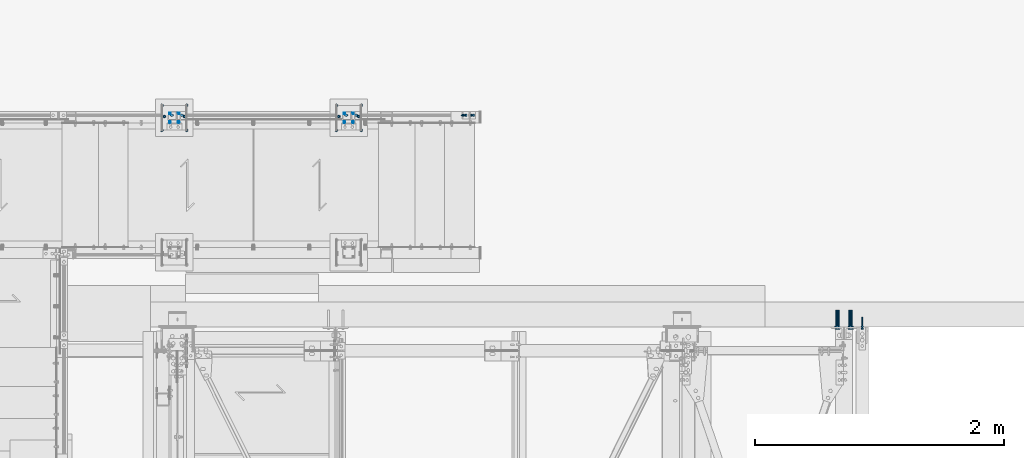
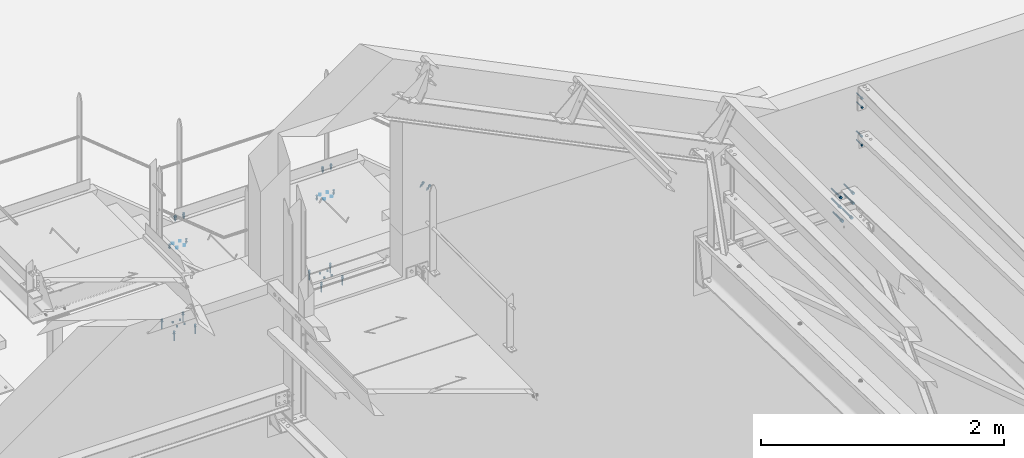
# One storey, part 200 of 362: 16 mechanical fasteners.
"""IFC2X3 building model written with IfcOpenShell, lengths in millimetres."""

from ifc_helpers import new_model, si_unit, frame, frame_2d, origin_with_axes, origin_2d_with_axis, place, context, subcontext, project, spatial, polyline, circle_curve, parameter, trimmed, segment, composite_curve, circle, outline, extrude, source, transform, mapped, material, type_object, element, save


model = new_model("IFC2X3")

# Units and contexts
model_context = context("Model", 3, precision=1e-05, world=origin_with_axes())
body_context = subcontext(model_context, "Body", "Model", "MODEL_VIEW")
ifc_project = project(units=[si_unit("LENGTHUNIT", "METRE", prefix="MILLI"), si_unit("AREAUNIT", "SQUARE_METRE"), si_unit("VOLUMEUNIT", "CUBIC_METRE"), si_unit("MASSUNIT", "GRAM", prefix="KILO"), si_unit("TIMEUNIT", "SECOND"), si_unit("PLANEANGLEUNIT", "RADIAN"), si_unit("SOLIDANGLEUNIT", "STERADIAN"), si_unit("THERMODYNAMICTEMPERATUREUNIT", "DEGREE_CELSIUS"), si_unit("LUMINOUSINTENSITYUNIT", "LUMEN")], contexts=[model_context])

# Site, building, storey
site_placement = place(None, origin_with_axes())
site = spatial("IfcSite", under=ifc_project, at=site_placement, Name="Undefined", CompositionType="ELEMENT")
building_placement = place(site_placement, origin_with_axes())
building = spatial("IfcBuilding", under=site, at=building_placement, Name="Undefined", CompositionType="ELEMENT")
storey_placement = place(building_placement, origin_with_axes())
storey = spatial("IfcBuildingStorey", under=building, at=storey_placement, Name="Undefined", CompositionType="ELEMENT", Elevation=0.0)

# Mechanical fasteners
ifc_material_1 = material(Name="6.8")
mechanical_fastener_type = type_object("IfcMechanicalFastenerType", Name="Bolt assembly")
shared_shape_1 = source(origin_with_axes(), body_context, "Body", "SweptSolid", [
    extrude(circle(Radius=7.0, at=origin_2d_with_axis()), frame((0.0, -12.0, 0.0), z_axis=(0.0, 1.0, 0.0), x_axis=(1.0, 0.0, 0.0)), (0.0, 0.0, 1.0), 12.1),
])
for number, where, z_axis, x_axis, name in (
    (1, (34255.0000000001, 17034.9996684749, 7050.0), (-1.0, 0.0, 0.0), (0.0, 1.0, 0.0), "Bolt assembly"),
    (2, (35655.0000000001, 17034.9996684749, 7050.0), (-1.0, 0.0, 0.0), (0.0, 1.0, 0.0), "Bolt assembly"),
):
    element("IfcMechanicalFastener", number, at=place(storey_placement, frame(where, z_axis=z_axis, x_axis=x_axis)), inside=storey, type_object=mechanical_fastener_type, material=ifc_material_1, Name=name, NominalDiameter=12.0, NominalLength=12.0, context=body_context, shape_type="MappedRepresentation", body=[
        mapped(shared_shape_1, transform((0.0, 0.0, -35.0))),
        mapped(shared_shape_1, transform((70.0, 0.0, -35.0))),
        mapped(shared_shape_1, transform((0.0, 0.0, 35.0))),
        mapped(shared_shape_1, transform((70.0, 0.0, 35.0))),
    ])
ifc_material_2 = material(Name="HILTI-HSA-R")
shared_shape_2 = source(origin_with_axes(), body_context, "Body", "SweptSolid", [
    extrude(circle(Radius=7.0, at=origin_2d_with_axis()), frame((0.0, -12.0, 0.0), z_axis=(0.0, 1.0, 0.0), x_axis=(1.0, 0.0, 0.0)), (0.0, 0.0, 1.0), 12.1),
    extrude(outline(polyline([(10.39230484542, 0.0), (5.19615242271, 9.00000000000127), (-5.19615242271, 9.00000000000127), (-10.39230484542, 0.0), (-5.19615242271, -9.00000000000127), (5.19615242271, -9.00000000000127), (10.39230484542, 0.0)])), frame((0.0, -19.92, 0.0), z_axis=(0.0, 1.0, 0.0), x_axis=(1.0, 0.0, 0.0)), (0.0, 0.0, 1.0), 7.92),
    extrude(circle(Radius=6.0, at=origin_2d_with_axis()), frame((0.0, -12.0, 0.0), z_axis=(0.0, 1.0, 0.0), x_axis=(1.0, 0.0, 0.0)), (0.0, 0.0, 1.0), 89.2),
    extrude(outline(polyline([(11.5008173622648, 0.0), (5.7504086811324, 9.96000000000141), (-5.7504086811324, 9.96000000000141), (-11.5008173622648, 0.0), (-5.7504086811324, -9.96000000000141), (5.7504086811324, -9.96000000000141), (11.5008173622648, 0.0)])), frame((0.0, 0.0, 0.0), z_axis=(0.0, 1.0, 0.0), x_axis=(1.0, 0.0, 0.0)), (0.0, 0.0, 1.0), 7.92),
])
for number, where, z_axis, x_axis, name in (
    (3, (34255.0000000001, 16969.9996684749, 7050.0), (-1.0, 0.0, 0.0), (0.0, 1.0, 0.0), "Bolt assembly"),
    (4, (35655.0000000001, 16969.9996684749, 7050.0), (-1.0, 0.0, 0.0), (0.0, 1.0, 0.0), "Bolt assembly"),
):
    element("IfcMechanicalFastener", number, at=place(storey_placement, frame(where, z_axis=z_axis, x_axis=x_axis)), inside=storey, type_object=mechanical_fastener_type, material=ifc_material_2, Name=name, NominalDiameter=12.0, NominalLength=89.1999969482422, context=body_context, shape_type="MappedRepresentation", body=[
        mapped(shared_shape_2, transform((0.0, 0.0, -100.0))),
        mapped(shared_shape_2, transform((200.0, 0.0, -100.0))),
        mapped(shared_shape_2, transform((0.0, 0.0, 100.0))),
        mapped(shared_shape_2, transform((200.0, 0.0, 100.0))),
    ])
ifc_material_3 = material(Name="8.8-SB-GALVA")
shared_shape_3 = source(origin_with_axes(), body_context, "Body", "SweptSolid", [
    extrude(circle(Radius=7.0, at=origin_2d_with_axis()), frame((0.0, -0.100011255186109, 0.0), z_axis=(0.0, 1.0, 0.0), x_axis=(1.0, 0.0, 0.0)), (0.0, 0.0, 1.0), 12.9),
    extrude(outline(composite_curve([segment(polyline([(-7.0, 7.0), (7.0, 7.0)]), True, "CONTINUOUS"), segment(trimmed(circle_curve(frame_2d((7.0, 0.0), x_axis=(0.0, 1.0)), 7.0), [parameter(0.0)], [parameter(3.14159265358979)], False, "PARAMETER"), True, "CONTINUOUS"), segment(polyline([(7.0, -7.0), (-7.0, -7.0)]), True, "CONTINUOUS"), segment(trimmed(circle_curve(frame_2d((-7.0, 0.0), x_axis=(0.0, -1.0)), 7.0), [parameter(0.0)], [parameter(3.14159265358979)], False, "PARAMETER"), True, "DISCONTINUOUS")], self_intersect=False)), frame((0.0, -9.9, 0.0), z_axis=(0.0, 1.0, 0.0), x_axis=(1.0, 0.0, 0.0)), (0.0, 0.0, 1.0), 10.0),
    extrude(outline(polyline([(10.39230484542, 0.0), (5.19615242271, 9.00000000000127), (-5.19615242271, 9.00000000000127), (-10.39230484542, 0.0), (-5.19615242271, -9.00000000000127), (5.19615242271, -9.00000000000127), (10.39230484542, 0.0)])), frame((0.0, -21.88, 0.0), z_axis=(0.0, 1.0, 0.0), x_axis=(1.0, 0.0, 0.0)), (0.0, 0.0, 1.0), 7.92),
    extrude(circle(Radius=6.0, at=origin_2d_with_axis()), frame((0.0, -13.96, 0.0), z_axis=(0.0, 1.0, 0.0), x_axis=(1.0, 0.0, 0.0)), (0.0, 0.0, 1.0), 50.0),
    extrude(circle(Radius=10.8, at=origin_2d_with_axis()), frame((0.0, -13.96, 0.0), z_axis=(0.0, 1.0, 0.0), x_axis=(1.0, 0.0, 0.0)), (0.0, 0.0, 1.0), 3.96),
    extrude(outline(polyline([(11.5008173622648, 0.0), (5.7504086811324, 9.96000000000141), (-5.7504086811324, 9.96000000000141), (-11.5008173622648, 0.0), (-5.7504086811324, -9.96000000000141), (5.7504086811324, -9.96000000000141), (11.5008173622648, 0.0)])), frame((0.0, 12.800464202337, 0.0), z_axis=(0.0, 1.0, 0.0), x_axis=(1.0, 0.0, 0.0)), (0.0, 0.0, 1.0), 7.92),
])
mechanical_fastener_1_placement = place(storey_placement, frame((36584.0391422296, 17089.9938659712, 7627.46731409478), z_axis=(0.0, 1.0, 0.0), x_axis=(0.768221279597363, 0.0, -0.640184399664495)))
element("IfcMechanicalFastener", 5, at=mechanical_fastener_1_placement, inside=storey, type_object=mechanical_fastener_type, material=ifc_material_3, Name="Bolt assembly", NominalDiameter=12.0, NominalLength=50.0, context=body_context, shape_type="MappedRepresentation", body=[
    mapped(shared_shape_3, transform((0.0, 0.0, 0.0))),
    mapped(shared_shape_3, transform((80.0, 0.0, 0.0))),
])
shared_shape_4 = source(origin_with_axes(), body_context, "Body", "SweptSolid", [
    extrude(circle(Radius=7.0, at=origin_2d_with_axis()), frame((0.0, -0.10007666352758, 0.0), z_axis=(0.0, 1.0, 0.0), x_axis=(1.0, 0.0, 0.0)), (0.0, 0.0, 1.0), 12.9),
    extrude(outline(composite_curve([segment(polyline([(-7.0, 7.0), (7.0, 7.0)]), True, "CONTINUOUS"), segment(trimmed(circle_curve(frame_2d((7.0, 0.0), x_axis=(0.0, 1.0)), 7.0), [parameter(0.0)], [parameter(3.14159265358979)], False, "PARAMETER"), True, "CONTINUOUS"), segment(polyline([(7.0, -7.0), (-7.0, -7.0)]), True, "CONTINUOUS"), segment(trimmed(circle_curve(frame_2d((-7.0, 0.0), x_axis=(0.0, -1.0)), 7.0), [parameter(0.0)], [parameter(3.14159265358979)], False, "PARAMETER"), True, "DISCONTINUOUS")], self_intersect=False)), frame((0.0, -9.9, 0.0), z_axis=(0.0, 1.0, 0.0), x_axis=(1.0, 0.0, 0.0)), (0.0, 0.0, 1.0), 10.0),
    extrude(outline(polyline([(10.39230484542, 0.0), (5.19615242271, 9.00000000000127), (-5.19615242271, 9.00000000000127), (-10.39230484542, 0.0), (-5.19615242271, -9.00000000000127), (5.19615242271, -9.00000000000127), (10.39230484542, 0.0)])), frame((0.0, -21.88, 0.0), z_axis=(0.0, 1.0, 0.0), x_axis=(1.0, 0.0, 0.0)), (0.0, 0.0, 1.0), 7.92),
    extrude(circle(Radius=6.0, at=origin_2d_with_axis()), frame((0.0, -13.96, 0.0), z_axis=(0.0, 1.0, 0.0), x_axis=(1.0, 0.0, 0.0)), (0.0, 0.0, 1.0), 50.0),
    extrude(circle(Radius=10.8, at=origin_2d_with_axis()), frame((0.0, -13.96, 0.0), z_axis=(0.0, 1.0, 0.0), x_axis=(1.0, 0.0, 0.0)), (0.0, 0.0, 1.0), 3.96),
    extrude(outline(polyline([(11.5008173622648, 0.0), (5.7504086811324, 9.96000000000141), (-5.7504086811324, 9.96000000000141), (-11.5008173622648, 0.0), (-5.7504086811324, -9.96000000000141), (5.7504086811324, -9.96000000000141), (11.5008173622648, 0.0)])), frame((0.0, 12.800376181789, 0.0), z_axis=(0.0, 1.0, 0.0), x_axis=(1.0, 0.0, 0.0)), (0.0, 0.0, 1.0), 7.92),
])
mechanical_fastener_2_placement = place(storey_placement, frame((35635.0123796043, 17089.9938659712, 8109.9999407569), z_axis=(0.0, 1.0, 0.0), x_axis=(1.0, 0.0, 0.0)))
element("IfcMechanicalFastener", 6, at=mechanical_fastener_2_placement, inside=storey, type_object=mechanical_fastener_type, material=ifc_material_3, Name="Bolt assembly", NominalDiameter=12.0, NominalLength=50.0, context=body_context, shape_type="MappedRepresentation", body=[
    mapped(shared_shape_4, transform((0.0, 0.0, 0.0))),
    mapped(shared_shape_4, transform((80.0, 0.0, 0.0))),
])
shared_shape_5 = source(origin_with_axes(), body_context, "Body", "SweptSolid", [
    extrude(circle(Radius=7.0, at=origin_2d_with_axis()), frame((0.0, -0.100259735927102, 0.0), z_axis=(0.0, 1.0, 0.0), x_axis=(1.0, 0.0, 0.0)), (0.0, 0.0, 1.0), 12.9),
    extrude(outline(composite_curve([segment(polyline([(-7.0, 7.0), (7.0, 7.0)]), True, "CONTINUOUS"), segment(trimmed(circle_curve(frame_2d((7.0, 0.0), x_axis=(0.0, 1.0)), 7.0), [parameter(0.0)], [parameter(3.14159265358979)], False, "PARAMETER"), True, "CONTINUOUS"), segment(polyline([(7.0, -7.0), (-7.0, -7.0)]), True, "CONTINUOUS"), segment(trimmed(circle_curve(frame_2d((-7.0, 0.0), x_axis=(0.0, -1.0)), 7.0), [parameter(0.0)], [parameter(3.14159265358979)], False, "PARAMETER"), True, "DISCONTINUOUS")], self_intersect=False)), frame((0.0, -9.9, 0.0), z_axis=(0.0, 1.0, 0.0), x_axis=(1.0, 0.0, 0.0)), (0.0, 0.0, 1.0), 10.0),
    extrude(outline(polyline([(10.39230484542, 0.0), (5.19615242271, 9.00000000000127), (-5.19615242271, 9.00000000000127), (-10.39230484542, 0.0), (-5.19615242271, -9.00000000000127), (5.19615242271, -9.00000000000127), (10.39230484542, 0.0)])), frame((0.0, -21.88, 0.0), z_axis=(0.0, 1.0, 0.0), x_axis=(1.0, 0.0, 0.0)), (0.0, 0.0, 1.0), 7.92),
    extrude(circle(Radius=6.0, at=origin_2d_with_axis()), frame((0.0, -13.96, 0.0), z_axis=(0.0, 1.0, 0.0), x_axis=(1.0, 0.0, 0.0)), (0.0, 0.0, 1.0), 50.0),
    extrude(circle(Radius=10.8, at=origin_2d_with_axis()), frame((0.0, -13.96, 0.0), z_axis=(0.0, 1.0, 0.0), x_axis=(1.0, 0.0, 0.0)), (0.0, 0.0, 1.0), 3.96),
    extrude(outline(polyline([(11.5008173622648, 0.0), (5.7504086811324, 9.96000000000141), (-5.7504086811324, 9.96000000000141), (-11.5008173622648, 0.0), (-5.7504086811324, -9.96000000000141), (5.7504086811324, -9.96000000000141), (11.5008173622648, 0.0)])), frame((0.0, 12.8000405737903, 0.0), z_axis=(0.0, 1.0, 0.0), x_axis=(1.0, 0.0, 0.0)), (0.0, 0.0, 1.0), 7.92),
])
mechanical_fastener_3_placement = place(storey_placement, frame((34235.0123796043, 17089.9938659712, 8109.9999407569), z_axis=(0.0, 1.0, 0.0), x_axis=(1.0, 0.0, 0.0)))
element("IfcMechanicalFastener", 7, at=mechanical_fastener_3_placement, inside=storey, type_object=mechanical_fastener_type, material=ifc_material_3, Name="Bolt assembly", NominalDiameter=12.0, NominalLength=50.0, context=body_context, shape_type="MappedRepresentation", body=[
    mapped(shared_shape_5, transform((0.0, 0.0, 0.0))),
    mapped(shared_shape_5, transform((80.0, 0.0, 0.0))),
])
shared_shape_6 = source(origin_with_axes(), body_context, "Body", "SweptSolid", [
    extrude(circle(Radius=7.0, at=origin_2d_with_axis()), frame((0.0, 0.0, 0.0), z_axis=(0.0, 1.0, 0.0), x_axis=(1.0, 0.0, 0.0)), (0.0, 0.0, 1.0), 8.1),
])
for number, where, z_axis, x_axis, name in (
    (8, (34255.0000000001, 17034.9996684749, 7850.00001160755), (-1.0, 0.0, 0.0), (0.0, 1.0, 0.0), "Bolt assembly"),
    (9, (35655.0000000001, 17034.9996684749, 7850.00001160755), (-1.0, 0.0, 0.0), (0.0, 1.0, 0.0), "Bolt assembly"),
):
    element("IfcMechanicalFastener", number, at=place(storey_placement, frame(where, z_axis=z_axis, x_axis=x_axis)), inside=storey, type_object=mechanical_fastener_type, material=ifc_material_1, Name=name, NominalDiameter=12.0, NominalLength=8.0, context=body_context, shape_type="MappedRepresentation", body=[
        mapped(shared_shape_6, transform((0.0, 0.0, -35.0))),
        mapped(shared_shape_6, transform((70.0, 0.0, -35.0))),
        mapped(shared_shape_6, transform((0.0, 0.0, 35.0))),
        mapped(shared_shape_6, transform((70.0, 0.0, 35.0))),
    ])
shared_shape_7 = source(origin_with_axes(), body_context, "Body", "SweptSolid", [
    extrude(circle(Radius=7.0, at=origin_2d_with_axis()), frame((0.0, -13.5000574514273, 0.0), z_axis=(0.0, 1.0, 0.0), x_axis=(1.0, 0.0, 0.0)), (0.0, 0.0, 1.0), 13.6),
    extrude(circle(Radius=7.0, at=origin_2d_with_axis()), frame((0.0, -0.10007666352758, 0.0), z_axis=(0.0, 1.0, 0.0), x_axis=(1.0, 0.0, 0.0)), (0.0, 0.0, 1.0), 8.1),
    extrude(outline(polyline([(10.39230484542, 0.0), (5.19615242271, 9.00000000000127), (-5.19615242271, 9.00000000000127), (-10.39230484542, 0.0), (-5.19615242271, -9.00000000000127), (5.19615242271, -9.00000000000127), (10.39230484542, 0.0)])), frame((0.0, -21.5200574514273, 0.0), z_axis=(0.0, 1.0, 0.0), x_axis=(1.0, 0.0, 0.0)), (0.0, 0.0, 1.0), 7.92),
    extrude(circle(Radius=6.0, at=origin_2d_with_axis()), frame((0.0, -13.6000574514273, 0.0), z_axis=(0.0, 1.0, 0.0), x_axis=(1.0, 0.0, 0.0)), (0.0, 0.0, 1.0), 40.0),
    extrude(outline(polyline([(11.5008173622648, 0.0), (5.7504086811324, 9.96000000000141), (-5.7504086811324, 9.96000000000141), (-11.5008173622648, 0.0), (-5.7504086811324, -9.96000000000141), (5.7504086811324, -9.96000000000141), (11.5008173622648, 0.0)])), frame((0.0, 7.99992914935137, 0.0), z_axis=(0.0, 1.0, 0.0), x_axis=(1.0, 0.0, 0.0)), (0.0, 0.0, 1.0), 7.92),
])
for number, where, z_axis, x_axis, name in (
    (10, (34255.0000000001, 17079.9996684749, 7849.9999407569), (1.0, 0.0, 0.0), (0.0, -1.0, 0.0), "Bolt assembly"),
    (11, (35655.0000000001, 17079.9996684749, 7849.9999407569), (1.0, 0.0, 0.0), (0.0, -1.0, 0.0), "Bolt assembly"),
):
    element("IfcMechanicalFastener", number, at=place(storey_placement, frame(where, z_axis=z_axis, x_axis=x_axis)), inside=storey, type_object=mechanical_fastener_type, material=ifc_material_3, Name=name, NominalDiameter=12.0, NominalLength=40.0, context=body_context, shape_type="MappedRepresentation", body=[
        mapped(shared_shape_7, transform((0.0, 0.0, -80.0))),
        mapped(shared_shape_7, transform((0.0, 0.0, 80.0))),
    ])
shared_shape_8 = source(origin_with_axes(), body_context, "Body", "SweptSolid", [
    extrude(circle(Radius=7.0, at=origin_2d_with_axis()), frame((0.0, -5.9999542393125, 0.0), z_axis=(0.0, 1.0, 0.0), x_axis=(1.0, 0.0, 0.0)), (0.0, 0.0, 1.0), 6.1),
    extrude(outline(polyline([(10.39230484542, 0.0), (5.19615242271, 9.00000000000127), (-5.19615242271, 9.00000000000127), (-10.39230484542, 0.0), (-5.19615242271, -9.00000000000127), (5.19615242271, -9.00000000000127), (10.39230484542, 0.0)])), frame((0.0, -13.9199542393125, 0.0), z_axis=(0.0, 1.0, 0.0), x_axis=(1.0, 0.0, 0.0)), (0.0, 0.0, 1.0), 7.92),
    extrude(circle(Radius=6.0, at=origin_2d_with_axis()), frame((0.0, -5.9999542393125, 0.0), z_axis=(0.0, 1.0, 0.0), x_axis=(1.0, 0.0, 0.0)), (0.0, 0.0, 1.0), 89.2),
    extrude(outline(polyline([(11.5008173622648, 0.0), (5.7504086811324, 9.96000000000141), (-5.7504086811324, 9.96000000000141), (-11.5008173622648, 0.0), (-5.7504086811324, -9.96000000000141), (5.7504086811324, -9.96000000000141), (11.5008173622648, 0.0)])), frame((0.0, 0.0, 0.0), z_axis=(0.0, 1.0, 0.0), x_axis=(1.0, 0.0, 0.0)), (0.0, 0.0, 1.0), 7.92),
])
mechanical_fastener_4_placement = place(storey_placement, frame((39775.0000000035, 15390.0000000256, 7932.48302366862), z_axis=(-1.0, 0.0, 0.0), x_axis=(0.0, 0.0, 1.0)))
element("IfcMechanicalFastener", 12, at=mechanical_fastener_4_placement, inside=storey, type_object=mechanical_fastener_type, material=ifc_material_2, Name="Bolt assembly", NominalDiameter=12.0, NominalLength=89.1999969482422, context=body_context, shape_type="MappedRepresentation", body=[
    mapped(shared_shape_8, transform((0.0, 0.0, 0.0))),
    mapped(shared_shape_8, transform((90.0, 0.0, 0.0))),
])
shared_shape_9 = source(origin_with_axes(), body_context, "Body", "SweptSolid", [
    extrude(circle(Radius=7.0, at=origin_2d_with_axis()), frame((0.0, -10.0000010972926, 0.0), z_axis=(0.0, 1.0, 0.0), x_axis=(1.0, 0.0, 0.0)), (0.0, 0.0, 1.0), 10.1),
    extrude(outline(polyline([(10.39230484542, 0.0), (5.19615242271, 9.00000000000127), (-5.19615242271, 9.00000000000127), (-10.39230484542, 0.0), (-5.19615242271, -9.00000000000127), (5.19615242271, -9.00000000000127), (10.39230484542, 0.0)])), frame((0.0, -17.92, 0.0), z_axis=(0.0, 1.0, 0.0), x_axis=(1.0, 0.0, 0.0)), (0.0, 0.0, 1.0), 7.92),
    extrude(circle(Radius=6.0, at=origin_2d_with_axis()), frame((0.0, -10.0000010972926, 0.0), z_axis=(0.0, 1.0, 0.0), x_axis=(1.0, 0.0, 0.0)), (0.0, 0.0, 1.0), 89.2),
    extrude(outline(polyline([(11.5008173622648, 0.0), (5.7504086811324, 9.96000000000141), (-5.7504086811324, 9.96000000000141), (-11.5008173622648, 0.0), (-5.7504086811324, -9.96000000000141), (5.7504086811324, -9.96000000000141), (11.5008173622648, 0.0)])), frame((0.0, 0.0, 0.0), z_axis=(0.0, 1.0, 0.0), x_axis=(1.0, 0.0, 0.0)), (0.0, 0.0, 1.0), 7.92),
])
mechanical_fastener_5_placement = place(storey_placement, frame((39775.0029830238, 15390.000000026, 8314.99702093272), z_axis=(-1.0, 0.0, 0.0), x_axis=(0.0, 0.0, 1.0)))
element("IfcMechanicalFastener", 13, at=mechanical_fastener_5_placement, inside=storey, type_object=mechanical_fastener_type, material=ifc_material_2, Name="Bolt assembly", NominalDiameter=12.0, NominalLength=89.1999969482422, context=body_context, shape_type="MappedRepresentation", body=[
    mapped(shared_shape_9, transform((0.0, 0.0, 0.0))),
    mapped(shared_shape_9, transform((90.0, 0.0, 0.0))),
])
ifc_material_4 = material(Name="HILTI-HST-R")
shared_shape_10 = source(origin_with_axes(), body_context, "Body", "SweptSolid", [
    extrude(circle(Radius=9.0, at=origin_2d_with_axis()), frame((0.0, -9.99987141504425, 0.0), z_axis=(0.0, 1.0, 0.0), x_axis=(1.0, 0.0, 0.0)), (0.0, 0.0, 1.0), 10.1),
    extrude(outline(polyline([(13.85640646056, 0.0), (6.92820323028, 12.0000000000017), (-6.92820323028, 12.0000000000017), (-13.85640646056, 0.0), (-6.92820323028, -12.0000000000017), (6.92820323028, -12.0000000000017), (13.85640646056, 0.0)])), frame((0.0, -20.559881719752, 0.0), z_axis=(0.0, 1.0, 0.0), x_axis=(1.0, 0.0, 0.0)), (0.0, 0.0, 1.0), 10.56),
    extrude(circle(Radius=8.0, at=origin_2d_with_axis()), frame((0.0, -9.99987141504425, 0.0), z_axis=(0.0, 1.0, 0.0), x_axis=(1.0, 0.0, 0.0)), (0.0, 0.0, 1.0), 146.2),
    extrude(outline(polyline([(15.3344231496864, 0.0), (7.6672115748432, 13.2800000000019), (-7.6672115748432, 13.2800000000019), (-15.3344231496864, 0.0), (-7.6672115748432, -13.2800000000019), (7.6672115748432, -13.2800000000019), (15.3344231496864, 0.0)])), frame((0.0, 0.000125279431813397, 0.0), z_axis=(0.0, 1.0, 0.0), x_axis=(1.0, 0.0, 0.0)), (0.0, 0.0, 1.0), 10.56),
])
mechanical_fastener_6_placement = place(storey_placement, frame((39630.000000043, 15390.0, 7241.21647214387), z_axis=(-1.0, 0.0, 0.0), x_axis=(0.0, 0.0, 1.0)))
element("IfcMechanicalFastener", 14, at=mechanical_fastener_6_placement, inside=storey, type_object=mechanical_fastener_type, material=ifc_material_4, Name="Bolt assembly", NominalDiameter=16.0, NominalLength=146.199996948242, context=body_context, shape_type="MappedRepresentation", body=[
    mapped(shared_shape_10, transform((0.0, 0.0, -45.0))),
    mapped(shared_shape_10, transform((0.0, 0.0, 45.0))),
])
for number, where, z_axis, x_axis, name in (
    (15, (39570.0000000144, 15389.9998704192, 7433.32582688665), (0.0, 0.0, 1.0), (1.0, 0.0, 0.0), "Bolt assembly"),
    (16, (39690.0000000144, 15389.9998704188, 7433.32582688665), (0.0, 0.0, -1.0), (-1.0, 0.0, 0.0), "Bolt assembly"),
):
    element("IfcMechanicalFastener", number, at=place(storey_placement, frame(where, z_axis=z_axis, x_axis=x_axis)), inside=storey, type_object=mechanical_fastener_type, material=ifc_material_4, Name=name, NominalDiameter=16.0, NominalLength=146.199996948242, context=body_context, shape_type="MappedRepresentation", body=[
        mapped(shared_shape_10, transform((0.0, 0.0, -50.0))),
        mapped(shared_shape_10, transform((0.0, 0.0, 50.0))),
    ])

save(model, "model.ifc")
